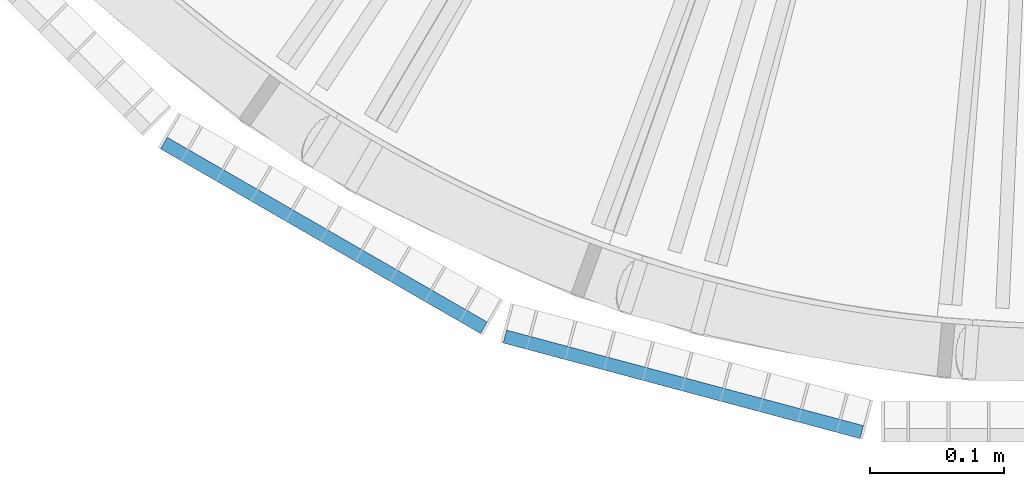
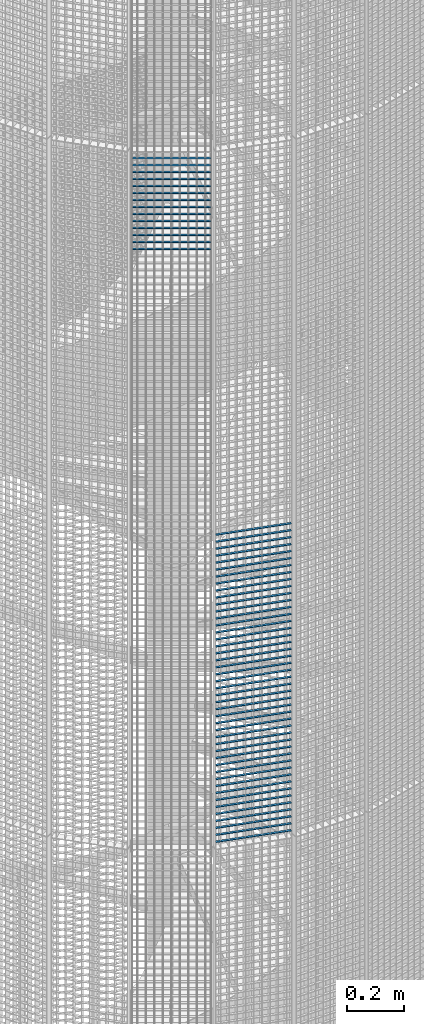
# One storey, part 157 of 1148: 59 beams, 2 elements without a shape of their own.
"""IFC2X3 building model written with IfcOpenShell, lengths in millimetres."""

import ifcopenshell
import ifcopenshell.guid

model = None  # the IFC model being written
_history = None  # IfcOwnerHistory: only IFC2X3 demands one
_inside = {}  # id of a spatial element -> (the spatial element, [elements in it])
_under = {}  # id of a project, library or spatial element -> (it, [spatial elements below it])
_declared = {}  # id of a project -> (the project, [libraries it declares])
_typed = {}  # id of a type object -> (the type object, [elements of that type])
_made_of = {}  # id of a material, layer set ... -> (it, [elements and type objects made of it])


def new_model(schema):
    """Start an empty IFC model of exactly this schema.

    Asked for "IFC4X3", IfcOpenShell would pick the latest addendum, in which some entities
    have other attributes; the version numbers below select the first issue.
    IFC2X3 requires an IfcOwnerHistory on every rooted entity: one is made here for all.
    """
    global model, _history
    if schema == "IFC4X3":
        model = ifcopenshell.file(schema_version=(4, 3, 0, 0))
    else:
        model = ifcopenshell.file(schema=schema)
    _inside.clear()
    _under.clear()
    _declared.clear()
    _typed.clear()
    _made_of.clear()
    _history = None
    if model.schema == "IFC2X3":
        org = make("IfcOrganization", Name="unknown")
        user = make(
            "IfcPersonAndOrganization",
            ThePerson=make("IfcPerson", FamilyName="unknown"),
            TheOrganization=org,
        )
        app = make(
            "IfcApplication",
            ApplicationDeveloper=org,
            Version="unknown",
            ApplicationFullName="unknown",
            ApplicationIdentifier="unknown",
        )
        _history = make(
            "IfcOwnerHistory",
            OwningUser=user,
            OwningApplication=app,
            ChangeAction="ADDED",
            CreationDate=0,
        )
    return model


def make(cls, **values):
    """One entity of the class cls with the attributes given. An attribute that is None is left unset."""
    return model.create_entity(
        cls, **{name: value for name, value in values.items() if value is not None}
    )


def rooted(cls, **values):
    """An entity with a GlobalId (a new one), such as an element, a storey or a relation."""
    return make(cls, GlobalId=ifcopenshell.guid.new(), OwnerHistory=_history, **values)


def si_unit(unit_type, name, prefix=None):
    """IfcSIUnit, for example si_unit("LENGTHUNIT", "METRE", prefix="MILLI")."""
    return make("IfcSIUnit", UnitType=unit_type, Prefix=prefix, Name=name)


def assignment(units):
    """IfcUnitAssignment: the units of a project."""
    return None if units is None else make("IfcUnitAssignment", Units=units)


def point(xyz):
    """IfcCartesianPoint."""
    return None if xyz is None else make("IfcCartesianPoint", Coordinates=xyz)


def direction(xyz):
    """IfcDirection."""
    return None if xyz is None else make("IfcDirection", DirectionRatios=xyz)


def frame(location, z_axis=None, x_axis=None):
    """IfcAxis2Placement3D, a coordinate frame: its origin and axes. An axis left out is left unset."""
    return make(
        "IfcAxis2Placement3D",
        Location=point(location),
        Axis=direction(z_axis),
        RefDirection=direction(x_axis),
    )


def frame_2d(location, x_axis=None):
    """IfcAxis2Placement2D, a coordinate frame in the plane: its origin and x axis."""
    return make(
        "IfcAxis2Placement2D", Location=point(location), RefDirection=direction(x_axis)
    )


def origin_with_axes():
    """The frame at (0, 0, 0) with the z axis (0, 0, 1) and the x axis (1, 0, 0) written out."""
    return frame((0.0, 0.0, 0.0), z_axis=(0.0, 0.0, 1.0), x_axis=(1.0, 0.0, 0.0))


def origin_2d_with_axis():
    """The frame at (0, 0) in the plane with the x axis (1, 0) written out."""
    return frame_2d((0.0, 0.0), x_axis=(1.0, 0.0))


def place(relative_to, where):
    """IfcLocalPlacement: puts the frame where relative to a parent placement (None: the world)."""
    return make(
        "IfcLocalPlacement", PlacementRelTo=relative_to, RelativePlacement=where
    )


def context(
    kind, dimensions, precision=None, world=None, true_north=None, identifier=None
):
    """IfcGeometricRepresentationContext, for example the 3D "Model" context."""
    return make(
        "IfcGeometricRepresentationContext",
        ContextIdentifier=identifier,
        ContextType=kind,
        CoordinateSpaceDimension=dimensions,
        Precision=precision,
        WorldCoordinateSystem=world,
        TrueNorth=true_north,
    )


def subcontext(parent, identifier, kind, view, scale=None):
    """IfcGeometricRepresentationSubContext, for example "Body" below "Model"."""
    return make(
        "IfcGeometricRepresentationSubContext",
        ContextIdentifier=identifier,
        ContextType=kind,
        ParentContext=parent,
        TargetScale=scale,
        TargetView=view,
    )


def project(units=None, contexts=None):
    """IfcProject with its units and contexts."""
    return rooted(
        "IfcProject",
        Name="project",
        RepresentationContexts=contexts,
        UnitsInContext=assignment(units),
    )


def spatial(cls, under=None, at=None, **own):
    """A site, building, storey or space (cls), placed at a placement, below another one or the project."""
    s = rooted(cls, ObjectPlacement=at, **own)
    if under is not None:
        _under.setdefault(under.id(), (under, []))[1].append(s)
    return s


def profile(cls, at=None, kind="AREA", **sizes):
    """A parametric profile (cls). Its sizes go by their IFC names, for example OverallWidth=200.0."""
    return make(cls, ProfileType=kind, Position=at, **sizes)


def rectangle(**sizes):
    """IfcRectangleProfileDef."""
    return profile("IfcRectangleProfileDef", **sizes)


def extrude(swept, where, along, depth):
    """IfcExtrudedAreaSolid: the profile swept, set in the frame where, extruded along a direction by depth."""
    return make(
        "IfcExtrudedAreaSolid",
        SweptArea=swept,
        Position=where,
        ExtrudedDirection=direction(along),
        Depth=depth,
    )


def shape(context_of_items, identifier, shape_type, items):
    """IfcShapeRepresentation: the items that make up one representation, for example the "Body"."""
    return make(
        "IfcShapeRepresentation",
        ContextOfItems=context_of_items,
        RepresentationIdentifier=identifier,
        RepresentationType=shape_type,
        Items=items,
    )


def material(Name=None, Category=None):
    """IfcMaterial."""
    return make("IfcMaterial", Name=Name, Category=Category)


def made_of(thing, what):
    """Note that an element or type object is made of a material, layer set ...; save() writes the relation."""
    if what is not None:
        _made_of.setdefault(what.id(), (what, []))[1].append(thing)
    return thing


def type_object(cls, material=None, **own):
    """A type object (cls), such as IfcWallType, which elements share."""
    return made_of(rooted(cls, **own), material)


def element(
    cls,
    number,
    at=None,
    inside=None,
    cuts=None,
    type_object=None,
    material=None,
    context=None,
    identifier="Body",
    shape_type=None,
    held_by="IfcProductDefinitionShape",
    body=None,
    shapes=None,
    **own,
):
    """One element of the class cls, such as IfcWall. Its Tag is "e" and its number.

    at: its placement. inside: the storey or other place that contains it. cuts: it is an
    opening in that element (IfcRelVoidsElement). A single representation is given by context,
    identifier, shape_type and body (its items); several are given by shapes. held_by: the class
    of the entity that holds the representations. save() writes the other relations.
    """
    e = rooted(cls, Tag="e%d" % number, ObjectPlacement=at, **own)
    if body is not None:
        shapes = [shape(context, identifier, shape_type, body)]
    if shapes is not None:
        e.Representation = make(held_by, Representations=shapes)
    if inside is not None:
        _inside.setdefault(inside.id(), (inside, []))[1].append(e)
    if cuts is not None:
        rooted(
            "IfcRelVoidsElement", RelatingBuildingElement=cuts, RelatedOpeningElement=e
        )
    if type_object is not None:
        _typed.setdefault(type_object.id(), (type_object, []))[1].append(e)
    return made_of(e, material)


def aggregate(whole, parts):
    """IfcRelAggregates: a whole, such as a stair, and the parts it consists of."""
    return rooted("IfcRelAggregates", RelatingObject=whole, RelatedObjects=parts)


def save(model, path):
    """Write the relations noted so far, then the file.

    IfcRelAggregates (storeys below a building ...), IfcRelContainedInSpatialStructure (elements
    in a storey), IfcRelDefinesByType, IfcRelAssociatesMaterial and IfcRelDeclares: one each for
    every whole, place, type object, material and project.
    """
    for whole, parts in _under.values():
        aggregate(whole, parts)
    for where, things in _inside.values():
        rooted(
            "IfcRelContainedInSpatialStructure",
            RelatedElements=things,
            RelatingStructure=where,
        )
    for kind, things in _typed.values():
        rooted("IfcRelDefinesByType", RelatedObjects=things, RelatingType=kind)
    for what, things in _made_of.values():
        rooted("IfcRelAssociatesMaterial", RelatedObjects=things, RelatingMaterial=what)
    for by, libraries in _declared.values():
        rooted("IfcRelDeclares", RelatingContext=by, RelatedDefinitions=libraries)
    model.write(path)


model = new_model("IFC2X3")

# Units and contexts
model_context = context("Model", 3, precision=1e-05, world=origin_with_axes())
body_context = subcontext(model_context, "Body", "Model", "MODEL_VIEW")
ifc_project = project(units=[si_unit("LENGTHUNIT", "METRE", prefix="MILLI"), si_unit("AREAUNIT", "SQUARE_METRE"), si_unit("VOLUMEUNIT", "CUBIC_METRE"), si_unit("MASSUNIT", "GRAM", prefix="KILO"), si_unit("TIMEUNIT", "SECOND"), si_unit("PLANEANGLEUNIT", "RADIAN"), si_unit("SOLIDANGLEUNIT", "STERADIAN"), si_unit("THERMODYNAMICTEMPERATUREUNIT", "DEGREE_CELSIUS"), si_unit("LUMINOUSINTENSITYUNIT", "LUMEN")], contexts=[model_context])

# Site, building, storey
site_placement = place(None, origin_with_axes())
site = spatial("IfcSite", under=ifc_project, at=site_placement, Name="Undefined", CompositionType="ELEMENT")
building_placement = place(site_placement, origin_with_axes())
building = spatial("IfcBuilding", under=site, at=building_placement, Name="Undefined", CompositionType="ELEMENT")
storey_placement = place(building_placement, origin_with_axes())
storey = spatial("IfcBuildingStorey", under=building, at=storey_placement, Name="Undefined", CompositionType="ELEMENT", Elevation=0.0)

# Assembly, beams
assembly_1_placement = place(storey_placement, origin_with_axes())
assembly_1 = element("IfcElementAssembly", 1, at=assembly_1_placement, inside=storey, Name="BORDURE", AssemblyPlace="NOTDEFINED", PredefinedType="NOTDEFINED")
ifc_material = material(Name="STEEL/S235JR")
beam_type = type_object("IfcBeamType", Name="PL2*10", PredefinedType="NOTDEFINED")
beam_1_placement = place(assembly_1_placement, frame((-421.483733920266, -1039.82309522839, 7350.0), z_axis=(-0.258819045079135, -0.965925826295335, 0.0), x_axis=(0.965925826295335, -0.258819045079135, 0.0)))
beam_1 = element("IfcBeam", 2, at=beam_1_placement, type_object=beam_type, material=ifc_material, Name="ENTRETOISE", context=body_context, shape_type="SweptSolid", body=[
    extrude(rectangle(XDim=2.0, YDim=10.0, at=origin_2d_with_axis()), frame((275.999999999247, 9.09494701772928e-13, 1.53210777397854e-14), z_axis=(-1.0, 0.0, 0.0), x_axis=(0.0, -1.0, 0.0)), (0.0, 0.0, 1.0), 276.0),
])
beam_2_placement = place(assembly_1_placement, frame((-421.483733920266, -1039.82309522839, 7320.0), z_axis=(-0.258819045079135, -0.965925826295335, 0.0), x_axis=(0.965925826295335, -0.258819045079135, 0.0)))
beam_2 = element("IfcBeam", 3, at=beam_2_placement, type_object=beam_type, material=ifc_material, Name="ENTRETOISE", context=body_context, shape_type="SweptSolid", body=[
    extrude(rectangle(XDim=2.0, YDim=10.0, at=origin_2d_with_axis()), frame((275.999999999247, 9.09494701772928e-13, 1.53210777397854e-14), z_axis=(-1.0, 0.0, 0.0), x_axis=(0.0, -1.0, 0.0)), (0.0, 0.0, 1.0), 276.0),
])
beam_3_placement = place(assembly_1_placement, frame((-421.483733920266, -1039.82309522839, 7290.0), z_axis=(-0.258819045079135, -0.965925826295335, 0.0), x_axis=(0.965925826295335, -0.258819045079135, 0.0)))
beam_3 = element("IfcBeam", 4, at=beam_3_placement, type_object=beam_type, material=ifc_material, Name="ENTRETOISE", context=body_context, shape_type="SweptSolid", body=[
    extrude(rectangle(XDim=2.0, YDim=10.0, at=origin_2d_with_axis()), frame((275.999999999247, 9.09494701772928e-13, 1.53210777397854e-14), z_axis=(-1.0, 0.0, 0.0), x_axis=(0.0, -1.0, 0.0)), (0.0, 0.0, 1.0), 276.0),
])
beam_4_placement = place(assembly_1_placement, frame((-421.483733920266, -1039.82309522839, 7260.0), z_axis=(-0.258819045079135, -0.965925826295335, 0.0), x_axis=(0.965925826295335, -0.258819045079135, 0.0)))
beam_4 = element("IfcBeam", 5, at=beam_4_placement, type_object=beam_type, material=ifc_material, Name="ENTRETOISE", context=body_context, shape_type="SweptSolid", body=[
    extrude(rectangle(XDim=2.0, YDim=10.0, at=origin_2d_with_axis()), frame((275.999999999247, 9.09494701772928e-13, 1.53210777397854e-14), z_axis=(-1.0, 0.0, 0.0), x_axis=(0.0, -1.0, 0.0)), (0.0, 0.0, 1.0), 276.0),
])
beam_5_placement = place(assembly_1_placement, frame((-421.483733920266, -1039.82309522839, 7230.0), z_axis=(-0.258819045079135, -0.965925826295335, 0.0), x_axis=(0.965925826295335, -0.258819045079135, 0.0)))
beam_5 = element("IfcBeam", 6, at=beam_5_placement, type_object=beam_type, material=ifc_material, Name="ENTRETOISE", context=body_context, shape_type="SweptSolid", body=[
    extrude(rectangle(XDim=2.0, YDim=10.0, at=origin_2d_with_axis()), frame((275.999999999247, 9.09494701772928e-13, 1.53210777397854e-14), z_axis=(-1.0, 0.0, 0.0), x_axis=(0.0, -1.0, 0.0)), (0.0, 0.0, 1.0), 276.0),
])
beam_6_placement = place(assembly_1_placement, frame((-421.483733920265, -1039.82309522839, 7200.0), z_axis=(-0.258819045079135, -0.965925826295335, 0.0), x_axis=(0.965925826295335, -0.258819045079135, 0.0)))
beam_6 = element("IfcBeam", 7, at=beam_6_placement, type_object=beam_type, material=ifc_material, Name="ENTRETOISE", context=body_context, shape_type="SweptSolid", body=[
    extrude(rectangle(XDim=2.0, YDim=10.0, at=origin_2d_with_axis()), frame((275.999999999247, 9.09494701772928e-13, 1.53210777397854e-14), z_axis=(-1.0, 0.0, 0.0), x_axis=(0.0, -1.0, 0.0)), (0.0, 0.0, 1.0), 276.0),
])
beam_7_placement = place(assembly_1_placement, frame((-421.483733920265, -1039.82309522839, 7170.0), z_axis=(-0.258819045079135, -0.965925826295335, 0.0), x_axis=(0.965925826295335, -0.258819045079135, 0.0)))
beam_7 = element("IfcBeam", 8, at=beam_7_placement, type_object=beam_type, material=ifc_material, Name="ENTRETOISE", context=body_context, shape_type="SweptSolid", body=[
    extrude(rectangle(XDim=2.0, YDim=10.0, at=origin_2d_with_axis()), frame((275.999999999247, 9.09494701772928e-13, 1.53210777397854e-14), z_axis=(-1.0, 0.0, 0.0), x_axis=(0.0, -1.0, 0.0)), (0.0, 0.0, 1.0), 276.0),
])
beam_8_placement = place(assembly_1_placement, frame((-421.483733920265, -1039.82309522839, 7140.0), z_axis=(-0.258819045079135, -0.965925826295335, 0.0), x_axis=(0.965925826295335, -0.258819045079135, 0.0)))
beam_8 = element("IfcBeam", 9, at=beam_8_placement, type_object=beam_type, material=ifc_material, Name="ENTRETOISE", context=body_context, shape_type="SweptSolid", body=[
    extrude(rectangle(XDim=2.0, YDim=10.0, at=origin_2d_with_axis()), frame((275.999999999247, 9.09494701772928e-13, 1.53210777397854e-14), z_axis=(-1.0, 0.0, 0.0), x_axis=(0.0, -1.0, 0.0)), (0.0, 0.0, 1.0), 276.0),
])
beam_9_placement = place(assembly_1_placement, frame((-421.483733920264, -1039.82309522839, 6720.0), z_axis=(-0.258819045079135, -0.965925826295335, 0.0), x_axis=(0.965925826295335, -0.258819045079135, 0.0)))
beam_9 = element("IfcBeam", 10, at=beam_9_placement, type_object=beam_type, material=ifc_material, Name="ENTRETOISE", context=body_context, shape_type="SweptSolid", body=[
    extrude(rectangle(XDim=2.0, YDim=10.0, at=origin_2d_with_axis()), frame((275.999999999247, 9.09494701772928e-13, 1.53210777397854e-14), z_axis=(-1.0, 0.0, 0.0), x_axis=(0.0, -1.0, 0.0)), (0.0, 0.0, 1.0), 276.0),
])
beam_10_placement = place(assembly_1_placement, frame((-421.483733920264, -1039.82309522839, 6690.0), z_axis=(-0.258819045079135, -0.965925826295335, 0.0), x_axis=(0.965925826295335, -0.258819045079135, 0.0)))
beam_10 = element("IfcBeam", 11, at=beam_10_placement, type_object=beam_type, material=ifc_material, Name="ENTRETOISE", context=body_context, shape_type="SweptSolid", body=[
    extrude(rectangle(XDim=2.0, YDim=10.0, at=origin_2d_with_axis()), frame((275.999999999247, 9.09494701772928e-13, 1.53210777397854e-14), z_axis=(-1.0, 0.0, 0.0), x_axis=(0.0, -1.0, 0.0)), (0.0, 0.0, 1.0), 276.0),
])
beam_11_placement = place(assembly_1_placement, frame((-421.483733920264, -1039.82309522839, 6750.0), z_axis=(-0.258819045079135, -0.965925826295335, 0.0), x_axis=(0.965925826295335, -0.258819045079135, 0.0)))
beam_11 = element("IfcBeam", 12, at=beam_11_placement, type_object=beam_type, material=ifc_material, Name="ENTRETOISE", context=body_context, shape_type="SweptSolid", body=[
    extrude(rectangle(XDim=2.0, YDim=10.0, at=origin_2d_with_axis()), frame((275.999999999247, 9.09494701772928e-13, 1.53210777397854e-14), z_axis=(-1.0, 0.0, 0.0), x_axis=(0.0, -1.0, 0.0)), (0.0, 0.0, 1.0), 276.0),
])
beam_12_placement = place(assembly_1_placement, frame((-421.483733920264, -1039.82309522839, 6660.0), z_axis=(-0.258819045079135, -0.965925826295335, 0.0), x_axis=(0.965925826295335, -0.258819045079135, 0.0)))
beam_12 = element("IfcBeam", 13, at=beam_12_placement, type_object=beam_type, material=ifc_material, Name="ENTRETOISE", context=body_context, shape_type="SweptSolid", body=[
    extrude(rectangle(XDim=2.0, YDim=10.0, at=origin_2d_with_axis()), frame((275.999999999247, 9.09494701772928e-13, 1.53210777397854e-14), z_axis=(-1.0, 0.0, 0.0), x_axis=(0.0, -1.0, 0.0)), (0.0, 0.0, 1.0), 276.0),
])
beam_13_placement = place(assembly_1_placement, frame((-421.483733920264, -1039.82309522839, 6630.0), z_axis=(-0.258819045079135, -0.965925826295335, 0.0), x_axis=(0.965925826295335, -0.258819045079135, 0.0)))
beam_13 = element("IfcBeam", 14, at=beam_13_placement, type_object=beam_type, material=ifc_material, Name="ENTRETOISE", context=body_context, shape_type="SweptSolid", body=[
    extrude(rectangle(XDim=2.0, YDim=10.0, at=origin_2d_with_axis()), frame((275.999999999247, 9.09494701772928e-13, 1.53210777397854e-14), z_axis=(-1.0, 0.0, 0.0), x_axis=(0.0, -1.0, 0.0)), (0.0, 0.0, 1.0), 276.0),
])
beam_14_placement = place(assembly_1_placement, frame((-421.483733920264, -1039.82309522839, 6780.0), z_axis=(-0.258819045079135, -0.965925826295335, 0.0), x_axis=(0.965925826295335, -0.258819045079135, 0.0)))
beam_14 = element("IfcBeam", 15, at=beam_14_placement, type_object=beam_type, material=ifc_material, Name="ENTRETOISE", context=body_context, shape_type="SweptSolid", body=[
    extrude(rectangle(XDim=2.0, YDim=10.0, at=origin_2d_with_axis()), frame((275.999999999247, 9.09494701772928e-13, 1.53210777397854e-14), z_axis=(-1.0, 0.0, 0.0), x_axis=(0.0, -1.0, 0.0)), (0.0, 0.0, 1.0), 276.0),
])
beam_15_placement = place(assembly_1_placement, frame((-421.483733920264, -1039.82309522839, 6600.0), z_axis=(-0.258819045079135, -0.965925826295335, 0.0), x_axis=(0.965925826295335, -0.258819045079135, 0.0)))
beam_15 = element("IfcBeam", 16, at=beam_15_placement, type_object=beam_type, material=ifc_material, Name="ENTRETOISE", context=body_context, shape_type="SweptSolid", body=[
    extrude(rectangle(XDim=2.0, YDim=10.0, at=origin_2d_with_axis()), frame((275.999999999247, 9.09494701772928e-13, 1.53210777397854e-14), z_axis=(-1.0, 0.0, 0.0), x_axis=(0.0, -1.0, 0.0)), (0.0, 0.0, 1.0), 276.0),
])
beam_16_placement = place(assembly_1_placement, frame((-421.483733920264, -1039.82309522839, 6810.0), z_axis=(-0.258819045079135, -0.965925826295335, 0.0), x_axis=(0.965925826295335, -0.258819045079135, 0.0)))
beam_16 = element("IfcBeam", 17, at=beam_16_placement, type_object=beam_type, material=ifc_material, Name="ENTRETOISE", context=body_context, shape_type="SweptSolid", body=[
    extrude(rectangle(XDim=2.0, YDim=10.0, at=origin_2d_with_axis()), frame((275.999999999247, 9.09494701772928e-13, 1.53210777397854e-14), z_axis=(-1.0, 0.0, 0.0), x_axis=(0.0, -1.0, 0.0)), (0.0, 0.0, 1.0), 276.0),
])
beam_17_placement = place(assembly_1_placement, frame((-421.483733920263, -1039.82309522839, 6570.0), z_axis=(-0.258819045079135, -0.965925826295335, 0.0), x_axis=(0.965925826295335, -0.258819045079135, 0.0)))
beam_17 = element("IfcBeam", 18, at=beam_17_placement, type_object=beam_type, material=ifc_material, Name="ENTRETOISE", context=body_context, shape_type="SweptSolid", body=[
    extrude(rectangle(XDim=2.0, YDim=10.0, at=origin_2d_with_axis()), frame((275.999999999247, 9.09494701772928e-13, 1.53210777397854e-14), z_axis=(-1.0, 0.0, 0.0), x_axis=(0.0, -1.0, 0.0)), (0.0, 0.0, 1.0), 276.0),
])
beam_18_placement = place(assembly_1_placement, frame((-421.483733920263, -1039.82309522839, 6540.0), z_axis=(-0.258819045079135, -0.965925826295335, 0.0), x_axis=(0.965925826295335, -0.258819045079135, 0.0)))
beam_18 = element("IfcBeam", 19, at=beam_18_placement, type_object=beam_type, material=ifc_material, Name="ENTRETOISE", context=body_context, shape_type="SweptSolid", body=[
    extrude(rectangle(XDim=2.0, YDim=10.0, at=origin_2d_with_axis()), frame((275.999999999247, 9.09494701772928e-13, 1.53210777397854e-14), z_axis=(-1.0, 0.0, 0.0), x_axis=(0.0, -1.0, 0.0)), (0.0, 0.0, 1.0), 276.0),
])
beam_19_placement = place(assembly_1_placement, frame((-421.483733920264, -1039.82309522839, 6840.0), z_axis=(-0.258819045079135, -0.965925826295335, 0.0), x_axis=(0.965925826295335, -0.258819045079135, 0.0)))
beam_19 = element("IfcBeam", 20, at=beam_19_placement, type_object=beam_type, material=ifc_material, Name="ENTRETOISE", context=body_context, shape_type="SweptSolid", body=[
    extrude(rectangle(XDim=2.0, YDim=10.0, at=origin_2d_with_axis()), frame((275.999999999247, 9.09494701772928e-13, 1.53210777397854e-14), z_axis=(-1.0, 0.0, 0.0), x_axis=(0.0, -1.0, 0.0)), (0.0, 0.0, 1.0), 276.0),
])
beam_20_placement = place(assembly_1_placement, frame((-421.483733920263, -1039.82309522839, 6510.0), z_axis=(-0.258819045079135, -0.965925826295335, 0.0), x_axis=(0.965925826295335, -0.258819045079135, 0.0)))
beam_20 = element("IfcBeam", 21, at=beam_20_placement, type_object=beam_type, material=ifc_material, Name="ENTRETOISE", context=body_context, shape_type="SweptSolid", body=[
    extrude(rectangle(XDim=2.0, YDim=10.0, at=origin_2d_with_axis()), frame((275.999999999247, 9.09494701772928e-13, 1.53210777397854e-14), z_axis=(-1.0, 0.0, 0.0), x_axis=(0.0, -1.0, 0.0)), (0.0, 0.0, 1.0), 276.0),
])
beam_21_placement = place(assembly_1_placement, frame((-421.483733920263, -1039.82309522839, 6480.0), z_axis=(-0.258819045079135, -0.965925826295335, 0.0), x_axis=(0.965925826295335, -0.258819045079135, 0.0)))
beam_21 = element("IfcBeam", 22, at=beam_21_placement, type_object=beam_type, material=ifc_material, Name="ENTRETOISE", context=body_context, shape_type="SweptSolid", body=[
    extrude(rectangle(XDim=2.0, YDim=10.0, at=origin_2d_with_axis()), frame((275.999999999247, 9.09494701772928e-13, 1.53210777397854e-14), z_axis=(-1.0, 0.0, 0.0), x_axis=(0.0, -1.0, 0.0)), (0.0, 0.0, 1.0), 276.0),
])
beam_22_placement = place(assembly_1_placement, frame((-421.483733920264, -1039.82309522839, 6870.0), z_axis=(-0.258819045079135, -0.965925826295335, 0.0), x_axis=(0.965925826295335, -0.258819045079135, 0.0)))
beam_22 = element("IfcBeam", 23, at=beam_22_placement, type_object=beam_type, material=ifc_material, Name="ENTRETOISE", context=body_context, shape_type="SweptSolid", body=[
    extrude(rectangle(XDim=2.0, YDim=10.0, at=origin_2d_with_axis()), frame((275.999999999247, 9.09494701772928e-13, 1.53210777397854e-14), z_axis=(-1.0, 0.0, 0.0), x_axis=(0.0, -1.0, 0.0)), (0.0, 0.0, 1.0), 276.0),
])
beam_23_placement = place(assembly_1_placement, frame((-421.483733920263, -1039.82309522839, 6450.0), z_axis=(-0.258819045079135, -0.965925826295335, 0.0), x_axis=(0.965925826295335, -0.258819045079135, 0.0)))
beam_23 = element("IfcBeam", 24, at=beam_23_placement, type_object=beam_type, material=ifc_material, Name="ENTRETOISE", context=body_context, shape_type="SweptSolid", body=[
    extrude(rectangle(XDim=2.0, YDim=10.0, at=origin_2d_with_axis()), frame((275.999999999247, 9.09494701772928e-13, 1.53210777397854e-14), z_axis=(-1.0, 0.0, 0.0), x_axis=(0.0, -1.0, 0.0)), (0.0, 0.0, 1.0), 276.0),
])
beam_24_placement = place(assembly_1_placement, frame((-421.483733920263, -1039.82309522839, 6420.0), z_axis=(-0.258819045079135, -0.965925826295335, 0.0), x_axis=(0.965925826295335, -0.258819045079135, 0.0)))
beam_24 = element("IfcBeam", 25, at=beam_24_placement, type_object=beam_type, material=ifc_material, Name="ENTRETOISE", context=body_context, shape_type="SweptSolid", body=[
    extrude(rectangle(XDim=2.0, YDim=10.0, at=origin_2d_with_axis()), frame((275.999999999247, 9.09494701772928e-13, 1.53210777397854e-14), z_axis=(-1.0, 0.0, 0.0), x_axis=(0.0, -1.0, 0.0)), (0.0, 0.0, 1.0), 276.0),
])
beam_25_placement = place(assembly_1_placement, frame((-421.483733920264, -1039.82309522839, 6900.0), z_axis=(-0.258819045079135, -0.965925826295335, 0.0), x_axis=(0.965925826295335, -0.258819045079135, 0.0)))
beam_25 = element("IfcBeam", 26, at=beam_25_placement, type_object=beam_type, material=ifc_material, Name="ENTRETOISE", context=body_context, shape_type="SweptSolid", body=[
    extrude(rectangle(XDim=2.0, YDim=10.0, at=origin_2d_with_axis()), frame((275.999999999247, 9.09494701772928e-13, 1.53210777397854e-14), z_axis=(-1.0, 0.0, 0.0), x_axis=(0.0, -1.0, 0.0)), (0.0, 0.0, 1.0), 276.0),
])
beam_26_placement = place(assembly_1_placement, frame((-421.483733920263, -1039.82309522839, 6390.0), z_axis=(-0.258819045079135, -0.965925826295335, 0.0), x_axis=(0.965925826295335, -0.258819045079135, 0.0)))
beam_26 = element("IfcBeam", 27, at=beam_26_placement, type_object=beam_type, material=ifc_material, Name="ENTRETOISE", context=body_context, shape_type="SweptSolid", body=[
    extrude(rectangle(XDim=2.0, YDim=10.0, at=origin_2d_with_axis()), frame((275.999999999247, 9.09494701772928e-13, 1.53210777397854e-14), z_axis=(-1.0, 0.0, 0.0), x_axis=(0.0, -1.0, 0.0)), (0.0, 0.0, 1.0), 276.0),
])
beam_27_placement = place(assembly_1_placement, frame((-421.483733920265, -1039.82309522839, 6930.0), z_axis=(-0.258819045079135, -0.965925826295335, 0.0), x_axis=(0.965925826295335, -0.258819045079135, 0.0)))
beam_27 = element("IfcBeam", 28, at=beam_27_placement, type_object=beam_type, material=ifc_material, Name="ENTRETOISE", context=body_context, shape_type="SweptSolid", body=[
    extrude(rectangle(XDim=2.0, YDim=10.0, at=origin_2d_with_axis()), frame((275.999999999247, 9.09494701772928e-13, 1.53210777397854e-14), z_axis=(-1.0, 0.0, 0.0), x_axis=(0.0, -1.0, 0.0)), (0.0, 0.0, 1.0), 276.0),
])
beam_28_placement = place(assembly_1_placement, frame((-421.483733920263, -1039.82309522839, 6360.0), z_axis=(-0.258819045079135, -0.965925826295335, 0.0), x_axis=(0.965925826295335, -0.258819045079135, 0.0)))
beam_28 = element("IfcBeam", 29, at=beam_28_placement, type_object=beam_type, material=ifc_material, Name="ENTRETOISE", context=body_context, shape_type="SweptSolid", body=[
    extrude(rectangle(XDim=2.0, YDim=10.0, at=origin_2d_with_axis()), frame((275.999999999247, 9.09494701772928e-13, 1.53210777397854e-14), z_axis=(-1.0, 0.0, 0.0), x_axis=(0.0, -1.0, 0.0)), (0.0, 0.0, 1.0), 276.0),
])
beam_29_placement = place(assembly_1_placement, frame((-421.483733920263, -1039.82309522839, 6330.0), z_axis=(-0.258819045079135, -0.965925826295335, 0.0), x_axis=(0.965925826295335, -0.258819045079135, 0.0)))
beam_29 = element("IfcBeam", 30, at=beam_29_placement, type_object=beam_type, material=ifc_material, Name="ENTRETOISE", context=body_context, shape_type="SweptSolid", body=[
    extrude(rectangle(XDim=2.0, YDim=10.0, at=origin_2d_with_axis()), frame((275.999999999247, 9.09494701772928e-13, 1.53210777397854e-14), z_axis=(-1.0, 0.0, 0.0), x_axis=(0.0, -1.0, 0.0)), (0.0, 0.0, 1.0), 276.0),
])
beam_30_placement = place(assembly_1_placement, frame((-421.483733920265, -1039.82309522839, 6960.0), z_axis=(-0.258819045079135, -0.965925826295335, 0.0), x_axis=(0.965925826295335, -0.258819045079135, 0.0)))
beam_30 = element("IfcBeam", 31, at=beam_30_placement, type_object=beam_type, material=ifc_material, Name="ENTRETOISE", context=body_context, shape_type="SweptSolid", body=[
    extrude(rectangle(XDim=2.0, YDim=10.0, at=origin_2d_with_axis()), frame((275.999999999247, 9.09494701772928e-13, 1.53210777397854e-14), z_axis=(-1.0, 0.0, 0.0), x_axis=(0.0, -1.0, 0.0)), (0.0, 0.0, 1.0), 276.0),
])
beam_31_placement = place(assembly_1_placement, frame((-421.483733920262, -1039.82309522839, 6300.0), z_axis=(-0.258819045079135, -0.965925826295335, 0.0), x_axis=(0.965925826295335, -0.258819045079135, 0.0)))
beam_31 = element("IfcBeam", 32, at=beam_31_placement, type_object=beam_type, material=ifc_material, Name="ENTRETOISE", context=body_context, shape_type="SweptSolid", body=[
    extrude(rectangle(XDim=2.0, YDim=10.0, at=origin_2d_with_axis()), frame((275.999999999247, 9.09494701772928e-13, 1.53210777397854e-14), z_axis=(-1.0, 0.0, 0.0), x_axis=(0.0, -1.0, 0.0)), (0.0, 0.0, 1.0), 276.0),
])
beam_32_placement = place(assembly_1_placement, frame((-421.483733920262, -1039.82309522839, 6270.0), z_axis=(-0.258819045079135, -0.965925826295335, 0.0), x_axis=(0.965925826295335, -0.258819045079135, 0.0)))
beam_32 = element("IfcBeam", 33, at=beam_32_placement, type_object=beam_type, material=ifc_material, Name="ENTRETOISE", context=body_context, shape_type="SweptSolid", body=[
    extrude(rectangle(XDim=2.0, YDim=10.0, at=origin_2d_with_axis()), frame((275.999999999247, 9.09494701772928e-13, 1.53210777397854e-14), z_axis=(-1.0, 0.0, 0.0), x_axis=(0.0, -1.0, 0.0)), (0.0, 0.0, 1.0), 276.0),
])
beam_33_placement = place(assembly_1_placement, frame((-421.483733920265, -1039.82309522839, 6990.0), z_axis=(-0.258819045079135, -0.965925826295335, 0.0), x_axis=(0.965925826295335, -0.258819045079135, 0.0)))
beam_33 = element("IfcBeam", 34, at=beam_33_placement, type_object=beam_type, material=ifc_material, Name="ENTRETOISE", context=body_context, shape_type="SweptSolid", body=[
    extrude(rectangle(XDim=2.0, YDim=10.0, at=origin_2d_with_axis()), frame((275.999999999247, 9.09494701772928e-13, 1.53210777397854e-14), z_axis=(-1.0, 0.0, 0.0), x_axis=(0.0, -1.0, 0.0)), (0.0, 0.0, 1.0), 276.0),
])
beam_34_placement = place(assembly_1_placement, frame((-421.483733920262, -1039.82309522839, 6240.0), z_axis=(-0.258819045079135, -0.965925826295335, 0.0), x_axis=(0.965925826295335, -0.258819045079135, 0.0)))
beam_34 = element("IfcBeam", 35, at=beam_34_placement, type_object=beam_type, material=ifc_material, Name="ENTRETOISE", context=body_context, shape_type="SweptSolid", body=[
    extrude(rectangle(XDim=2.0, YDim=10.0, at=origin_2d_with_axis()), frame((275.999999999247, 9.09494701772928e-13, 1.53210777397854e-14), z_axis=(-1.0, 0.0, 0.0), x_axis=(0.0, -1.0, 0.0)), (0.0, 0.0, 1.0), 276.0),
])
beam_35_placement = place(assembly_1_placement, frame((-421.483733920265, -1039.82309522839, 7020.0), z_axis=(-0.258819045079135, -0.965925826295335, 0.0), x_axis=(0.965925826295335, -0.258819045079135, 0.0)))
beam_35 = element("IfcBeam", 36, at=beam_35_placement, type_object=beam_type, material=ifc_material, Name="ENTRETOISE", context=body_context, shape_type="SweptSolid", body=[
    extrude(rectangle(XDim=2.0, YDim=10.0, at=origin_2d_with_axis()), frame((275.999999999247, 9.09494701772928e-13, 1.53210777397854e-14), z_axis=(-1.0, 0.0, 0.0), x_axis=(0.0, -1.0, 0.0)), (0.0, 0.0, 1.0), 276.0),
])
beam_36_placement = place(assembly_1_placement, frame((-421.483733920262, -1039.82309522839, 6210.0), z_axis=(-0.258819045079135, -0.965925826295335, 0.0), x_axis=(0.965925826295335, -0.258819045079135, 0.0)))
beam_36 = element("IfcBeam", 37, at=beam_36_placement, type_object=beam_type, material=ifc_material, Name="ENTRETOISE", context=body_context, shape_type="SweptSolid", body=[
    extrude(rectangle(XDim=2.0, YDim=10.0, at=origin_2d_with_axis()), frame((275.999999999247, 9.09494701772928e-13, 1.53210777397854e-14), z_axis=(-1.0, 0.0, 0.0), x_axis=(0.0, -1.0, 0.0)), (0.0, 0.0, 1.0), 276.0),
])
beam_37_placement = place(assembly_1_placement, frame((-421.483733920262, -1039.82309522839, 6180.0), z_axis=(-0.258819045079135, -0.965925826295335, 0.0), x_axis=(0.965925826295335, -0.258819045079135, 0.0)))
beam_37 = element("IfcBeam", 38, at=beam_37_placement, type_object=beam_type, material=ifc_material, Name="ENTRETOISE", context=body_context, shape_type="SweptSolid", body=[
    extrude(rectangle(XDim=2.0, YDim=10.0, at=origin_2d_with_axis()), frame((275.999999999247, 9.09494701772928e-13, 1.53210777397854e-14), z_axis=(-1.0, 0.0, 0.0), x_axis=(0.0, -1.0, 0.0)), (0.0, 0.0, 1.0), 276.0),
])
beam_38_placement = place(assembly_1_placement, frame((-421.483733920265, -1039.82309522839, 7050.0), z_axis=(-0.258819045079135, -0.965925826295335, 0.0), x_axis=(0.965925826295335, -0.258819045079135, 0.0)))
beam_38 = element("IfcBeam", 39, at=beam_38_placement, type_object=beam_type, material=ifc_material, Name="ENTRETOISE", context=body_context, shape_type="SweptSolid", body=[
    extrude(rectangle(XDim=2.0, YDim=10.0, at=origin_2d_with_axis()), frame((275.999999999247, 9.09494701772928e-13, 1.53210777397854e-14), z_axis=(-1.0, 0.0, 0.0), x_axis=(0.0, -1.0, 0.0)), (0.0, 0.0, 1.0), 276.0),
])
beam_39_placement = place(assembly_1_placement, frame((-421.483733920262, -1039.82309522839, 6150.0), z_axis=(-0.258819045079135, -0.965925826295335, 0.0), x_axis=(0.965925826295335, -0.258819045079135, 0.0)))
beam_39 = element("IfcBeam", 40, at=beam_39_placement, type_object=beam_type, material=ifc_material, Name="ENTRETOISE", context=body_context, shape_type="SweptSolid", body=[
    extrude(rectangle(XDim=2.0, YDim=10.0, at=origin_2d_with_axis()), frame((275.999999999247, 9.09494701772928e-13, 1.53210777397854e-14), z_axis=(-1.0, 0.0, 0.0), x_axis=(0.0, -1.0, 0.0)), (0.0, 0.0, 1.0), 276.0),
])
beam_40_placement = place(assembly_1_placement, frame((-421.483733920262, -1039.82309522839, 6120.0), z_axis=(-0.258819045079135, -0.965925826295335, 0.0), x_axis=(0.965925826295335, -0.258819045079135, 0.0)))
beam_40 = element("IfcBeam", 41, at=beam_40_placement, type_object=beam_type, material=ifc_material, Name="ENTRETOISE", context=body_context, shape_type="SweptSolid", body=[
    extrude(rectangle(XDim=2.0, YDim=10.0, at=origin_2d_with_axis()), frame((275.999999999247, 9.09494701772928e-13, 1.53210777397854e-14), z_axis=(-1.0, 0.0, 0.0), x_axis=(0.0, -1.0, 0.0)), (0.0, 0.0, 1.0), 276.0),
])
beam_41_placement = place(assembly_1_placement, frame((-421.483733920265, -1039.82309522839, 7080.0), z_axis=(-0.258819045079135, -0.965925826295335, 0.0), x_axis=(0.965925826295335, -0.258819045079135, 0.0)))
beam_41 = element("IfcBeam", 42, at=beam_41_placement, type_object=beam_type, material=ifc_material, Name="ENTRETOISE", context=body_context, shape_type="SweptSolid", body=[
    extrude(rectangle(XDim=2.0, YDim=10.0, at=origin_2d_with_axis()), frame((275.999999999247, 9.09494701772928e-13, 1.53210777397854e-14), z_axis=(-1.0, 0.0, 0.0), x_axis=(0.0, -1.0, 0.0)), (0.0, 0.0, 1.0), 276.0),
])
beam_42_placement = place(assembly_1_placement, frame((-421.483733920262, -1039.82309522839, 6090.0), z_axis=(-0.258819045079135, -0.965925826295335, 0.0), x_axis=(0.965925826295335, -0.258819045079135, 0.0)))
beam_42 = element("IfcBeam", 43, at=beam_42_placement, type_object=beam_type, material=ifc_material, Name="ENTRETOISE", context=body_context, shape_type="SweptSolid", body=[
    extrude(rectangle(XDim=2.0, YDim=10.0, at=origin_2d_with_axis()), frame((275.999999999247, 9.09494701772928e-13, 1.53210777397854e-14), z_axis=(-1.0, 0.0, 0.0), x_axis=(0.0, -1.0, 0.0)), (0.0, 0.0, 1.0), 276.0),
])
beam_43_placement = place(assembly_1_placement, frame((-421.483733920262, -1039.82309522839, 6060.0), z_axis=(-0.258819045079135, -0.965925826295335, 0.0), x_axis=(0.965925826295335, -0.258819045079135, 0.0)))
beam_43 = element("IfcBeam", 44, at=beam_43_placement, type_object=beam_type, material=ifc_material, Name="ENTRETOISE", context=body_context, shape_type="SweptSolid", body=[
    extrude(rectangle(XDim=2.0, YDim=10.0, at=origin_2d_with_axis()), frame((275.999999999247, 9.09494701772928e-13, 1.53210777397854e-14), z_axis=(-1.0, 0.0, 0.0), x_axis=(0.0, -1.0, 0.0)), (0.0, 0.0, 1.0), 276.0),
])
beam_44_placement = place(assembly_1_placement, frame((-421.483733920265, -1039.82309522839, 7110.0), z_axis=(-0.258819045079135, -0.965925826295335, 0.0), x_axis=(0.965925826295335, -0.258819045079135, 0.0)))
beam_44 = element("IfcBeam", 45, at=beam_44_placement, type_object=beam_type, material=ifc_material, Name="ENTRETOISE", context=body_context, shape_type="SweptSolid", body=[
    extrude(rectangle(XDim=2.0, YDim=10.0, at=origin_2d_with_axis()), frame((275.999999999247, 9.09494701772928e-13, 1.53210777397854e-14), z_axis=(-1.0, 0.0, 0.0), x_axis=(0.0, -1.0, 0.0)), (0.0, 0.0, 1.0), 276.0),
])
beam_45_placement = place(assembly_1_placement, frame((-421.48373392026, -1039.82309522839, 6030.0), z_axis=(-0.258819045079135, -0.965925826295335, 0.0), x_axis=(0.965925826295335, -0.258819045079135, 0.0)))
beam_45 = element("IfcBeam", 46, at=beam_45_placement, type_object=beam_type, material=ifc_material, Name="ENTRETOISE", context=body_context, shape_type="SweptSolid", body=[
    extrude(rectangle(XDim=2.0, YDim=10.0, at=origin_2d_with_axis()), frame((275.999999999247, 9.09494701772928e-13, 1.53210777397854e-14), z_axis=(-1.0, 0.0, 0.0), x_axis=(0.0, -1.0, 0.0)), (0.0, 0.0, 1.0), 276.0),
])
aggregate(assembly_1, [beam_1, beam_2, beam_3, beam_4, beam_5, beam_6, beam_7, beam_8, beam_9, beam_10, beam_11, beam_12, beam_13, beam_14, beam_15, beam_16, beam_17, beam_18, beam_19, beam_20, beam_21, beam_22, beam_23, beam_24, beam_25, beam_26, beam_27, beam_28, beam_29, beam_30, beam_31, beam_32, beam_33, beam_34, beam_35, beam_36, beam_37, beam_38, beam_39, beam_40, beam_41, beam_42, beam_43, beam_44, beam_45])

assembly_2_placement = place(storey_placement, origin_with_axes())
assembly_2 = element("IfcElementAssembly", 47, at=assembly_2_placement, inside=storey, Name="BORDURE", AssemblyPlace="NOTDEFINED", PredefinedType="NOTDEFINED")
beam_46_placement = place(assembly_2_placement, frame((-676.248044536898, -895.303964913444, 8970.0), z_axis=(-0.49999999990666, -0.866025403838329, 0.0), x_axis=(0.866025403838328, -0.49999999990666, 0.0)))
beam_46 = element("IfcBeam", 48, at=beam_46_placement, type_object=beam_type, material=ifc_material, Name="ENTRETOISE", context=body_context, shape_type="SweptSolid", body=[
    extrude(rectangle(XDim=2.0, YDim=10.0, at=origin_2d_with_axis()), frame((275.999999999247, 9.09494701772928e-13, 1.53210777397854e-14), z_axis=(-1.0, 0.0, 0.0), x_axis=(0.0, -1.0, 0.0)), (0.0, 0.0, 1.0), 276.0),
])
beam_47_placement = place(assembly_2_placement, frame((-676.248044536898, -895.303964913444, 8940.0), z_axis=(-0.49999999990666, -0.866025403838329, 0.0), x_axis=(0.866025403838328, -0.49999999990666, 0.0)))
beam_47 = element("IfcBeam", 49, at=beam_47_placement, type_object=beam_type, material=ifc_material, Name="ENTRETOISE", context=body_context, shape_type="SweptSolid", body=[
    extrude(rectangle(XDim=2.0, YDim=10.0, at=origin_2d_with_axis()), frame((275.999999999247, 9.09494701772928e-13, 1.53210777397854e-14), z_axis=(-1.0, 0.0, 0.0), x_axis=(0.0, -1.0, 0.0)), (0.0, 0.0, 1.0), 276.0),
])
beam_48_placement = place(assembly_2_placement, frame((-676.248044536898, -895.303964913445, 8910.0), z_axis=(-0.49999999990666, -0.866025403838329, 0.0), x_axis=(0.866025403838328, -0.49999999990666, 0.0)))
beam_48 = element("IfcBeam", 50, at=beam_48_placement, type_object=beam_type, material=ifc_material, Name="ENTRETOISE", context=body_context, shape_type="SweptSolid", body=[
    extrude(rectangle(XDim=2.0, YDim=10.0, at=origin_2d_with_axis()), frame((275.999999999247, 9.09494701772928e-13, 1.53210777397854e-14), z_axis=(-1.0, 0.0, 0.0), x_axis=(0.0, -1.0, 0.0)), (0.0, 0.0, 1.0), 276.0),
])
beam_49_placement = place(assembly_2_placement, frame((-676.248044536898, -895.303964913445, 8880.0), z_axis=(-0.49999999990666, -0.866025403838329, 0.0), x_axis=(0.866025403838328, -0.49999999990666, 0.0)))
beam_49 = element("IfcBeam", 51, at=beam_49_placement, type_object=beam_type, material=ifc_material, Name="ENTRETOISE", context=body_context, shape_type="SweptSolid", body=[
    extrude(rectangle(XDim=2.0, YDim=10.0, at=origin_2d_with_axis()), frame((275.999999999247, 9.09494701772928e-13, 1.53210777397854e-14), z_axis=(-1.0, 0.0, 0.0), x_axis=(0.0, -1.0, 0.0)), (0.0, 0.0, 1.0), 276.0),
])
beam_50_placement = place(assembly_2_placement, frame((-676.248044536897, -895.303964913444, 8850.0), z_axis=(-0.49999999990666, -0.866025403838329, 0.0), x_axis=(0.866025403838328, -0.49999999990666, 0.0)))
beam_50 = element("IfcBeam", 52, at=beam_50_placement, type_object=beam_type, material=ifc_material, Name="ENTRETOISE", context=body_context, shape_type="SweptSolid", body=[
    extrude(rectangle(XDim=2.0, YDim=10.0, at=origin_2d_with_axis()), frame((275.999999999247, 9.09494701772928e-13, 1.53210777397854e-14), z_axis=(-1.0, 0.0, 0.0), x_axis=(0.0, -1.0, 0.0)), (0.0, 0.0, 1.0), 276.0),
])
beam_51_placement = place(assembly_2_placement, frame((-676.248044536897, -895.303964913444, 8820.0), z_axis=(-0.49999999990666, -0.866025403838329, 0.0), x_axis=(0.866025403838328, -0.49999999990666, 0.0)))
beam_51 = element("IfcBeam", 53, at=beam_51_placement, type_object=beam_type, material=ifc_material, Name="ENTRETOISE", context=body_context, shape_type="SweptSolid", body=[
    extrude(rectangle(XDim=2.0, YDim=10.0, at=origin_2d_with_axis()), frame((275.999999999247, 9.09494701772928e-13, 1.53210777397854e-14), z_axis=(-1.0, 0.0, 0.0), x_axis=(0.0, -1.0, 0.0)), (0.0, 0.0, 1.0), 276.0),
])
beam_52_placement = place(assembly_2_placement, frame((-676.248044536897, -895.303964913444, 8790.0), z_axis=(-0.49999999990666, -0.866025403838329, 0.0), x_axis=(0.866025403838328, -0.49999999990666, 0.0)))
beam_52 = element("IfcBeam", 54, at=beam_52_placement, type_object=beam_type, material=ifc_material, Name="ENTRETOISE", context=body_context, shape_type="SweptSolid", body=[
    extrude(rectangle(XDim=2.0, YDim=10.0, at=origin_2d_with_axis()), frame((275.999999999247, 9.09494701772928e-13, 1.53210777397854e-14), z_axis=(-1.0, 0.0, 0.0), x_axis=(0.0, -1.0, 0.0)), (0.0, 0.0, 1.0), 276.0),
])
beam_53_placement = place(assembly_2_placement, frame((-676.248044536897, -895.303964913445, 8760.0), z_axis=(-0.49999999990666, -0.866025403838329, 0.0), x_axis=(0.866025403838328, -0.49999999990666, 0.0)))
beam_53 = element("IfcBeam", 55, at=beam_53_placement, type_object=beam_type, material=ifc_material, Name="ENTRETOISE", context=body_context, shape_type="SweptSolid", body=[
    extrude(rectangle(XDim=2.0, YDim=10.0, at=origin_2d_with_axis()), frame((275.999999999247, 9.09494701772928e-13, 1.53210777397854e-14), z_axis=(-1.0, 0.0, 0.0), x_axis=(0.0, -1.0, 0.0)), (0.0, 0.0, 1.0), 276.0),
])
beam_54_placement = place(assembly_2_placement, frame((-676.248044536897, -895.303964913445, 8730.0), z_axis=(-0.49999999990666, -0.866025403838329, 0.0), x_axis=(0.866025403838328, -0.49999999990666, 0.0)))
beam_54 = element("IfcBeam", 56, at=beam_54_placement, type_object=beam_type, material=ifc_material, Name="ENTRETOISE", context=body_context, shape_type="SweptSolid", body=[
    extrude(rectangle(XDim=2.0, YDim=10.0, at=origin_2d_with_axis()), frame((275.999999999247, 9.09494701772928e-13, 1.53210777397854e-14), z_axis=(-1.0, 0.0, 0.0), x_axis=(0.0, -1.0, 0.0)), (0.0, 0.0, 1.0), 276.0),
])
beam_55_placement = place(assembly_2_placement, frame((-676.248044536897, -895.303964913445, 8700.0), z_axis=(-0.49999999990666, -0.866025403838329, 0.0), x_axis=(0.866025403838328, -0.49999999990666, 0.0)))
beam_55 = element("IfcBeam", 57, at=beam_55_placement, type_object=beam_type, material=ifc_material, Name="ENTRETOISE", context=body_context, shape_type="SweptSolid", body=[
    extrude(rectangle(XDim=2.0, YDim=10.0, at=origin_2d_with_axis()), frame((275.999999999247, 9.09494701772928e-13, 1.53210777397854e-14), z_axis=(-1.0, 0.0, 0.0), x_axis=(0.0, -1.0, 0.0)), (0.0, 0.0, 1.0), 276.0),
])
beam_56_placement = place(assembly_2_placement, frame((-676.248044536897, -895.303964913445, 8670.0), z_axis=(-0.49999999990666, -0.866025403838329, 0.0), x_axis=(0.866025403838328, -0.49999999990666, 0.0)))
beam_56 = element("IfcBeam", 58, at=beam_56_placement, type_object=beam_type, material=ifc_material, Name="ENTRETOISE", context=body_context, shape_type="SweptSolid", body=[
    extrude(rectangle(XDim=2.0, YDim=10.0, at=origin_2d_with_axis()), frame((275.999999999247, 9.09494701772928e-13, 1.53210777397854e-14), z_axis=(-1.0, 0.0, 0.0), x_axis=(0.0, -1.0, 0.0)), (0.0, 0.0, 1.0), 276.0),
])
beam_57_placement = place(assembly_2_placement, frame((-676.248044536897, -895.303964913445, 8640.0), z_axis=(-0.49999999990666, -0.866025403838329, 0.0), x_axis=(0.866025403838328, -0.49999999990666, 0.0)))
beam_57 = element("IfcBeam", 59, at=beam_57_placement, type_object=beam_type, material=ifc_material, Name="ENTRETOISE", context=body_context, shape_type="SweptSolid", body=[
    extrude(rectangle(XDim=2.0, YDim=10.0, at=origin_2d_with_axis()), frame((275.999999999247, 9.09494701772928e-13, 1.53210777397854e-14), z_axis=(-1.0, 0.0, 0.0), x_axis=(0.0, -1.0, 0.0)), (0.0, 0.0, 1.0), 276.0),
])
beam_58_placement = place(assembly_2_placement, frame((-676.248044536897, -895.303964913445, 8610.0), z_axis=(-0.49999999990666, -0.866025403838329, 0.0), x_axis=(0.866025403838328, -0.49999999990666, 0.0)))
beam_58 = element("IfcBeam", 60, at=beam_58_placement, type_object=beam_type, material=ifc_material, Name="ENTRETOISE", context=body_context, shape_type="SweptSolid", body=[
    extrude(rectangle(XDim=2.0, YDim=10.0, at=origin_2d_with_axis()), frame((275.999999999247, 9.09494701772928e-13, 1.53210777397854e-14), z_axis=(-1.0, 0.0, 0.0), x_axis=(0.0, -1.0, 0.0)), (0.0, 0.0, 1.0), 276.0),
])
beam_59_placement = place(assembly_2_placement, frame((-676.248044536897, -895.303964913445, 8580.0), z_axis=(-0.49999999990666, -0.866025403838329, 0.0), x_axis=(0.866025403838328, -0.49999999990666, 0.0)))
beam_59 = element("IfcBeam", 61, at=beam_59_placement, type_object=beam_type, material=ifc_material, Name="ENTRETOISE", context=body_context, shape_type="SweptSolid", body=[
    extrude(rectangle(XDim=2.0, YDim=10.0, at=origin_2d_with_axis()), frame((275.999999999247, 9.09494701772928e-13, 1.53210777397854e-14), z_axis=(-1.0, 0.0, 0.0), x_axis=(0.0, -1.0, 0.0)), (0.0, 0.0, 1.0), 276.0),
])
aggregate(assembly_2, [beam_46, beam_47, beam_48, beam_49, beam_50, beam_51, beam_52, beam_53, beam_54, beam_55, beam_56, beam_57, beam_58, beam_59])

save(model, "model.ifc")
